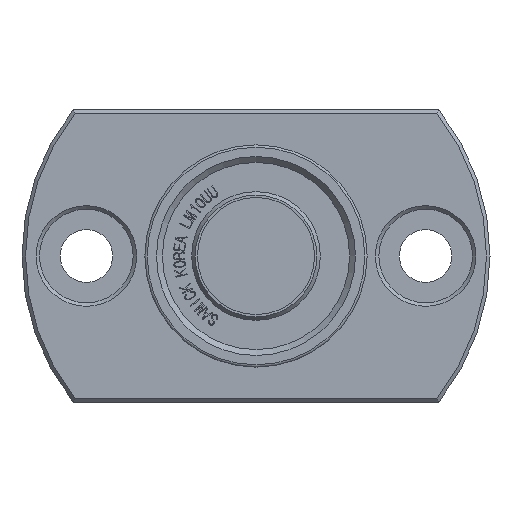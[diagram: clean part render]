
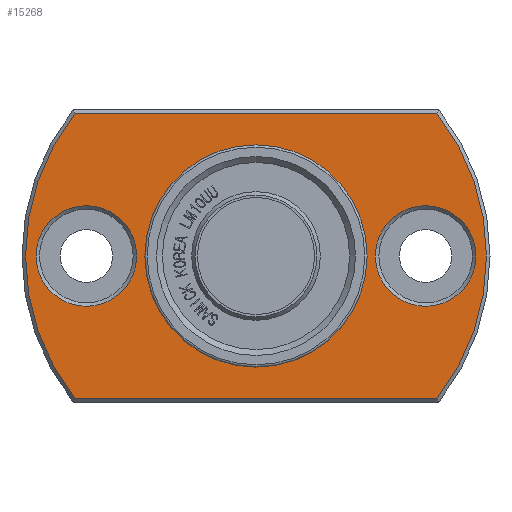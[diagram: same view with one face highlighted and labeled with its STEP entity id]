
A CAD part, front view. The second image highlights one B-rep face of the part: STEP entity #15268.
In plain terms, the highlighted planar face has unit normal (0, -1, 0).
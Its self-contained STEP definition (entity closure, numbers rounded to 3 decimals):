
#2511=FACE_BOUND('',#3625,.T.);
#2512=FACE_BOUND('',#3626,.T.);
#2513=FACE_BOUND('',#3627,.T.);
#2569=PLANE('',#16115);
#2800=FACE_OUTER_BOUND('',#3624,.T.);
#3624=EDGE_LOOP('',(#10636,#10637,#10638,#10639));
#3625=EDGE_LOOP('',(#10640));
#3626=EDGE_LOOP('',(#10641,#10642));
#3627=EDGE_LOOP('',(#10643));
#4506=LINE('',#18193,#5608);
#4507=LINE('',#18197,#5609);
#5608=VECTOR('',#16446,10.);
#5609=VECTOR('',#16449,10.);
#6709=CIRCLE('',#16112,4.3);
#6712=CIRCLE('',#16116,19.7);
#6713=CIRCLE('',#16117,19.7);
#6714=CIRCLE('',#16118,4.3);
#6715=CIRCLE('',#16119,9.5);
#6716=CIRCLE('',#16120,9.5);
#6775=VERTEX_POINT('',#18183);
#6778=VERTEX_POINT('',#18191);
#6779=VERTEX_POINT('',#18192);
#6780=VERTEX_POINT('',#18194);
#6781=VERTEX_POINT('',#18196);
#6782=VERTEX_POINT('',#18199);
#6783=VERTEX_POINT('',#18201);
#6784=VERTEX_POINT('',#18202);
#8319=EDGE_CURVE('',#6775,#6775,#6709,.T.);
#8323=EDGE_CURVE('',#6778,#6779,#4506,.T.);
#8324=EDGE_CURVE('',#6778,#6780,#6712,.T.);
#8325=EDGE_CURVE('',#6781,#6780,#4507,.T.);
#8326=EDGE_CURVE('',#6781,#6779,#6713,.T.);
#8327=EDGE_CURVE('',#6782,#6782,#6714,.T.);
#8328=EDGE_CURVE('',#6783,#6784,#6715,.T.);
#8329=EDGE_CURVE('',#6784,#6783,#6716,.T.);
#10636=ORIENTED_EDGE('',*,*,#8323,.F.);
#10637=ORIENTED_EDGE('',*,*,#8324,.T.);
#10638=ORIENTED_EDGE('',*,*,#8325,.F.);
#10639=ORIENTED_EDGE('',*,*,#8326,.T.);
#10640=ORIENTED_EDGE('',*,*,#8327,.F.);
#10641=ORIENTED_EDGE('',*,*,#8328,.F.);
#10642=ORIENTED_EDGE('',*,*,#8329,.F.);
#10643=ORIENTED_EDGE('',*,*,#8319,.F.);
#15268=ADVANCED_FACE('',(#2800,#2511,#2512,#2513),#2569,.T.);
#16112=AXIS2_PLACEMENT_3D('',#18184,#16437,#16438);
#16115=AXIS2_PLACEMENT_3D('',#18190,#16444,#16445);
#16116=AXIS2_PLACEMENT_3D('',#18195,#16447,#16448);
#16117=AXIS2_PLACEMENT_3D('',#18198,#16450,#16451);
#16118=AXIS2_PLACEMENT_3D('',#18200,#16452,#16453);
#16119=AXIS2_PLACEMENT_3D('',#18203,#16454,#16455);
#16120=AXIS2_PLACEMENT_3D('',#18204,#16456,#16457);
#16437=DIRECTION('center_axis',(0.,-1.,0.));
#16438=DIRECTION('ref_axis',(-1.,0.,0.));
#16444=DIRECTION('center_axis',(0.,-1.,0.));
#16445=DIRECTION('ref_axis',(0.,0.,-1.));
#16446=DIRECTION('',(-1.,0.,0.));
#16447=DIRECTION('center_axis',(0.,-1.,0.));
#16448=DIRECTION('ref_axis',(1.,0.,0.));
#16449=DIRECTION('',(1.,0.,0.));
#16450=DIRECTION('center_axis',(0.,-1.,0.));
#16451=DIRECTION('ref_axis',(1.,0.,0.));
#16452=DIRECTION('center_axis',(0.,-1.,0.));
#16453=DIRECTION('ref_axis',(-1.,0.,0.));
#16454=DIRECTION('center_axis',(0.,-1.,0.));
#16455=DIRECTION('ref_axis',(1.,0.,0.));
#16456=DIRECTION('center_axis',(0.,-1.,0.));
#16457=DIRECTION('ref_axis',(1.,0.,0.));
#18183=CARTESIAN_POINT('',(-10.2,-27.5,0.));
#18184=CARTESIAN_POINT('Origin',(-14.5,-27.5,0.));
#18190=CARTESIAN_POINT('Origin',(14.6,-27.5,0.));
#18191=CARTESIAN_POINT('',(15.468,-27.5,-12.2));
#18192=CARTESIAN_POINT('',(-15.468,-27.5,-12.2));
#18193=CARTESIAN_POINT('',(17.8,-27.5,-12.2));
#18194=CARTESIAN_POINT('',(15.468,-27.5,12.2));
#18195=CARTESIAN_POINT('Origin',(0.,-27.5,0.));
#18196=CARTESIAN_POINT('',(-15.468,-27.5,12.2));
#18197=CARTESIAN_POINT('',(-3.2,-27.5,12.2));
#18198=CARTESIAN_POINT('Origin',(0.,-27.5,0.));
#18199=CARTESIAN_POINT('',(18.8,-27.5,0.));
#18200=CARTESIAN_POINT('Origin',(14.5,-27.5,0.));
#18201=CARTESIAN_POINT('',(9.5,-27.5,0.));
#18202=CARTESIAN_POINT('',(-9.5,-27.5,0.));
#18203=CARTESIAN_POINT('Origin',(0.,-27.5,0.));
#18204=CARTESIAN_POINT('Origin',(0.,-27.5,0.));
